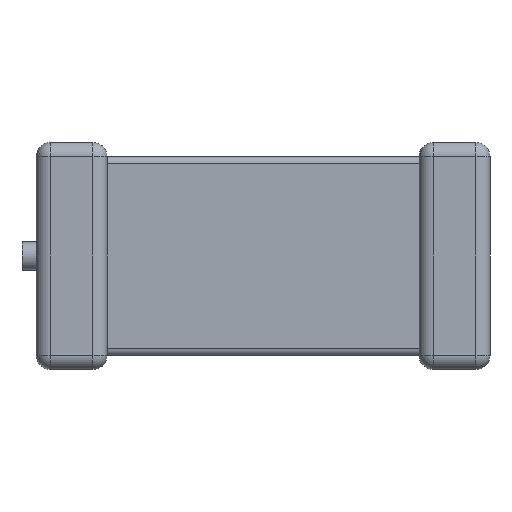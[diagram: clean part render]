
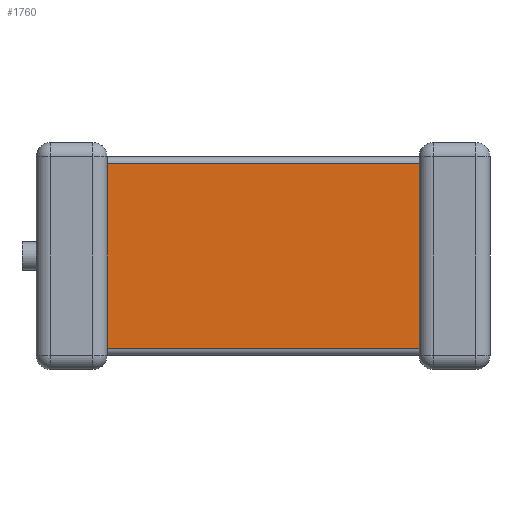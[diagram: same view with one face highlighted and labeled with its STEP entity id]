
A CAD part, front view. The second image highlights one B-rep face of the part: STEP entity #1760.
In plain terms, the highlighted planar face has unit normal (0, -1, 0).
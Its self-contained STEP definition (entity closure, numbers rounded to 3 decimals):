
#1521 = CARTESIAN_POINT ( 'NONE',  ( 1.1, 0.1, 0.65 ) ) ;
#1522 = VERTEX_POINT ( 'NONE', #1521 ) ;
#1523 = CARTESIAN_POINT ( 'NONE',  ( 1.1, 0.1, -0.65 ) ) ;
#1524 = VERTEX_POINT ( 'NONE', #1523 ) ;
#1525 = CARTESIAN_POINT ( 'NONE',  ( 1.1, 0.1, 0.7 ) ) ;
#1526 = DIRECTION ( 'NONE',  ( 0., 0., -1. ) ) ;
#1527 = VECTOR ( 'NONE', #1526, 1000. ) ;
#1528 = LINE ( 'NONE', #1525, #1527 ) ;
#1529 = EDGE_CURVE ( 'NONE', #1522, #1524, #1528, .T. ) ;
#1629 = CARTESIAN_POINT ( 'NONE',  ( -1.1, 0.1, -0.65 ) ) ;
#1630 = VERTEX_POINT ( 'NONE', #1629 ) ;
#1638 = CARTESIAN_POINT ( 'NONE',  ( -1.1, 0.1, 0.65 ) ) ;
#1639 = VERTEX_POINT ( 'NONE', #1638 ) ;
#1640 = CARTESIAN_POINT ( 'NONE',  ( -1.1, 0.1, 0.7 ) ) ;
#1641 = DIRECTION ( 'NONE',  ( 0., 0., 1. ) ) ;
#1642 = VECTOR ( 'NONE', #1641, 1000. ) ;
#1643 = LINE ( 'NONE', #1640, #1642 ) ;
#1644 = EDGE_CURVE ( 'NONE', #1630, #1639, #1643, .T. ) ;
#1739 = ORIENTED_EDGE ( 'NONE', *, *, #1644, .F. ) ;
#1740 = CARTESIAN_POINT ( 'NONE',  ( 1.1, 0.1, -0.65 ) ) ;
#1741 = DIRECTION ( 'NONE',  ( 1., 0., 0. ) ) ;
#1742 = VECTOR ( 'NONE', #1741, 1000. ) ;
#1743 = LINE ( 'NONE', #1740, #1742 ) ;
#1744 = EDGE_CURVE ( 'NONE', #1630, #1524, #1743, .T. ) ;
#1745 = ORIENTED_EDGE ( 'NONE', *, *, #1744, .T. ) ;
#1746 = ORIENTED_EDGE ( 'NONE', *, *, #1529, .F. ) ;
#1747 = CARTESIAN_POINT ( 'NONE',  ( -1.1, 0.1, 0.65 ) ) ;
#1748 = DIRECTION ( 'NONE',  ( -1., 0., 0. ) ) ;
#1749 = VECTOR ( 'NONE', #1748, 1000. ) ;
#1750 = LINE ( 'NONE', #1747, #1749 ) ;
#1751 = EDGE_CURVE ( 'NONE', #1522, #1639, #1750, .T. ) ;
#1752 = ORIENTED_EDGE ( 'NONE', *, *, #1751, .T. ) ;
#1753 = EDGE_LOOP ( 'NONE', ( #1739, #1745, #1746, #1752 ) ) ;
#1754 = FACE_OUTER_BOUND ( 'NONE', #1753, .T. ) ;
#1755 = CARTESIAN_POINT ( 'NONE',  ( 0., 0.1, 0. ) ) ;
#1756 = DIRECTION ( 'NONE',  ( 0., -1., 0. ) ) ;
#1757 = DIRECTION ( 'NONE',  ( 0., 0., -1. ) ) ;
#1758 = AXIS2_PLACEMENT_3D ( 'NONE', #1755, #1756, #1757 ) ;
#1759 = PLANE ( 'NONE', #1758 ) ;
#1760 = ADVANCED_FACE ( 'NONE', ( #1754 ), #1759, .T. ) ;
